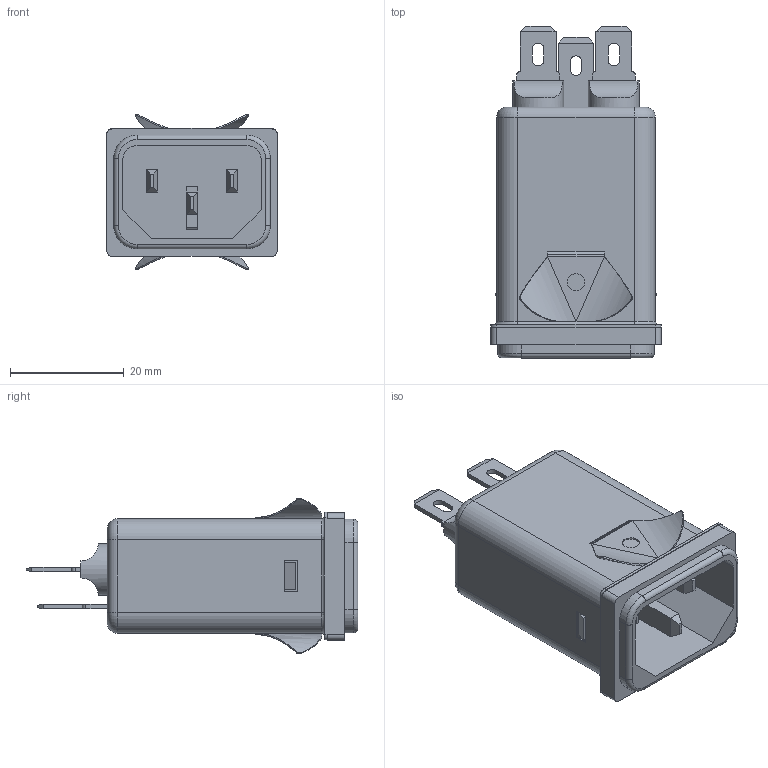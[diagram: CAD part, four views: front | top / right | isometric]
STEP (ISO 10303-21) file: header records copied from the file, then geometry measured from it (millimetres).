
FILE_DESCRIPTION((''),'2;1');
FILE_NAME('D:\_ PRODUCT\New project\3D request\FN9244S1-x-x-20\FN9244S1 (-20).stp','2013-06-05T15:34:46',('sayan.penton'),(''),'Autodesk Inventor 2010','Autodesk Inventor 2010','');
FILE_SCHEMA(('AUTOMOTIVE_DESIGN { 1 0 10303 214 1 1 1 1 }'));
Length unit declared in the file: millimetre
Products named in the file (1): Part2
Bounding box: 29.9 x 58.3 x 27.37 mm (x, y, z)
Volume: 6311.5 mm3; surface area: 15380.4 mm2
Topology: 1 solids, 1 shells, 615 faces, 1750 edges, 1120 vertices
Faces by surface type: plane 398, cylinder 140, bspline 65, torus 12
Full cylindrical faces by diameter (mm): 3 x1, 9 x2, 9.5 x2
Entity records: 21437 total; most frequent: CARTESIAN_POINT 4759, ORIENTED_EDGE 3484, DIRECTION 3120, EDGE_CURVE 1742, VECTOR 1370, LINE 1370, VERTEX_POINT 1118, AXIS2_PLACEMENT_3D 875
